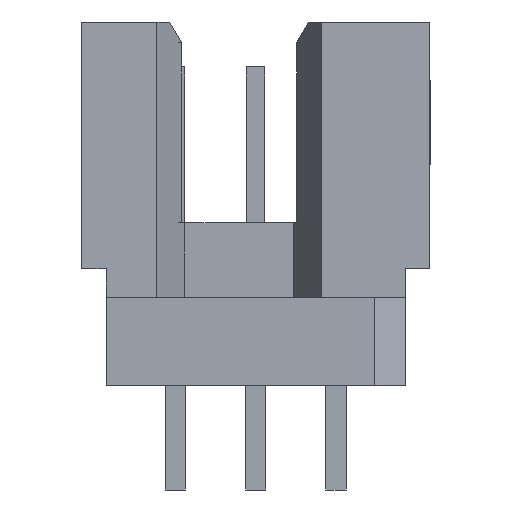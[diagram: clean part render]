
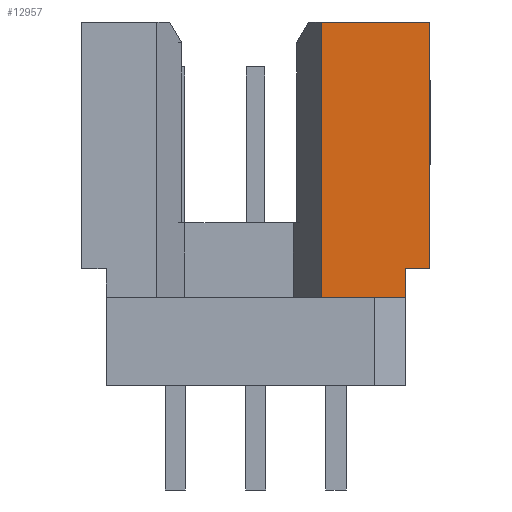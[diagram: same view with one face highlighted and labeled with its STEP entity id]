
A CAD part, left-side view. The second image highlights one B-rep face of the part: STEP entity #12957.
In plain terms, the highlighted planar face has unit normal (-1, 0, 0).
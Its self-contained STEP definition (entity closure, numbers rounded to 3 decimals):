
#88=DIRECTION('',(0.,1.,0.));
#89=VECTOR('',#88,0.765);
#90=CARTESIAN_POINT('',(-23.685,-5.5,-7.8));
#91=LINE('',#90,#89);
#92=DIRECTION('',(0.,0.,1.));
#93=VECTOR('',#92,8.715);
#94=CARTESIAN_POINT('',(-23.685,-2.076,-8.715));
#95=LINE('',#94,#93);
#96=DIRECTION('',(0.,-1.,0.));
#97=VECTOR('',#96,3.424);
#98=CARTESIAN_POINT('',(-23.685,-2.076,0.));
#99=LINE('',#98,#97);
#100=DIRECTION('',(0.,0.,-1.));
#101=VECTOR('',#100,7.8);
#102=CARTESIAN_POINT('',(-23.685,-5.5,0.));
#103=LINE('',#102,#101);
#1324=DIRECTION('',(0.,1.,0.));
#1325=VECTOR('',#1324,2.659);
#1326=CARTESIAN_POINT('',(-23.685,-4.735,-8.715));
#1327=LINE('',#1326,#1325);
#1376=DIRECTION('',(0.,0.,-1.));
#1377=VECTOR('',#1376,0.915);
#1378=CARTESIAN_POINT('',(-23.685,-4.735,-7.8));
#1379=LINE('',#1378,#1377);
#9722=CARTESIAN_POINT('',(-23.685,-5.5,0.));
#9723=CARTESIAN_POINT('',(-23.685,-5.5,-7.8));
#9724=VERTEX_POINT('',#9722);
#9725=VERTEX_POINT('',#9723);
#9770=CARTESIAN_POINT('',(-23.685,-2.076,-8.715));
#9772=VERTEX_POINT('',#9770);
#9800=CARTESIAN_POINT('',(-23.685,-4.735,-8.715));
#9802=VERTEX_POINT('',#9800);
#9804=CARTESIAN_POINT('',(-23.685,-4.735,-7.8));
#9805=VERTEX_POINT('',#9804);
#9808=CARTESIAN_POINT('',(-23.685,-2.076,0.));
#9809=VERTEX_POINT('',#9808);
#12938=CARTESIAN_POINT('',(-23.685,0.,0.));
#12939=DIRECTION('',(1.,0.,0.));
#12940=DIRECTION('',(0.,0.,-1.));
#12941=AXIS2_PLACEMENT_3D('',#12938,#12939,#12940);
#12942=PLANE('',#12941);
#12944=ORIENTED_EDGE('',*,*,#12943,.T.);
#12946=ORIENTED_EDGE('',*,*,#12945,.T.);
#12948=ORIENTED_EDGE('',*,*,#12947,.T.);
#12950=ORIENTED_EDGE('',*,*,#12949,.T.);
#12952=ORIENTED_EDGE('',*,*,#12951,.T.);
#12954=ORIENTED_EDGE('',*,*,#12953,.T.);
#12955=EDGE_LOOP('',(#12944,#12946,#12948,#12950,#12952,#12954));
#12956=FACE_OUTER_BOUND('',#12955,.F.);
#12957=ADVANCED_FACE('',(#12956),#12942,.F.);
#12943=EDGE_CURVE('',#9725,#9805,#91,.T.);
#12945=EDGE_CURVE('',#9805,#9802,#1379,.T.);
#12947=EDGE_CURVE('',#9802,#9772,#1327,.T.);
#12949=EDGE_CURVE('',#9772,#9809,#95,.T.);
#12951=EDGE_CURVE('',#9809,#9724,#99,.T.);
#12953=EDGE_CURVE('',#9724,#9725,#103,.T.);
